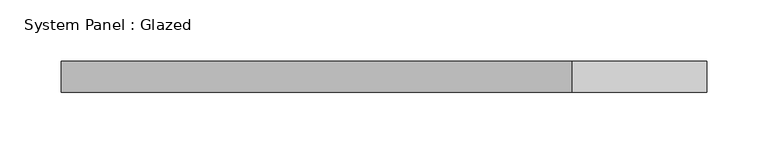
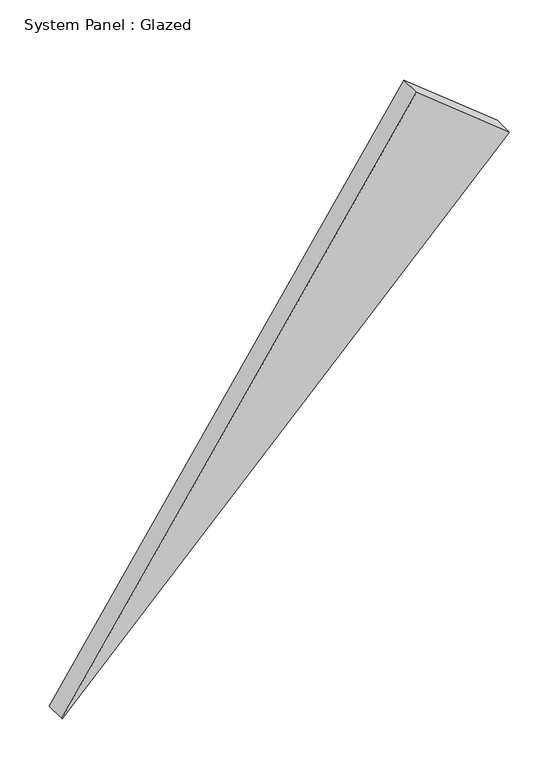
"""IFC4 building model written with IfcOpenShell, lengths in millimetres: plate geometry, System Panel : Glazed."""

from ifc_helpers import new_model, si_unit, frame, origin, place, context, project, spatial, polyline, outline, extrude, source, transform, mapped, element, save


def system_panel_glazed_5ada25a3(model_context):
    return source(origin(), model_context, "Body", "SweptSolid", [
        extrude(outline(polyline([(0.5298173, -263.6098538), (0.0, -262.9494463), (544.4463232, 263.6098538), (632.6132499, 153.7114009), (0.5298173, -263.6098538)])), frame((0.0, -44.45, 0.0), z_axis=(0.0, 1.0, 0.0), x_axis=(0.0, 0.0, 1.0)), (0.0, 0.0, 1.0), 25.4),
    ])


if __name__ == "__main__":
    model = new_model("IFC4")
    model_context = context("Model", 3, world=origin())
    ifc_project = project(units=[si_unit("LENGTHUNIT", "METRE", prefix="MILLI")], contexts=[model_context])
    site = spatial("IfcSite", under=ifc_project)
    building = spatial("IfcBuilding", under=site)
    placement = place(None, origin())
    system_panel_glazed_shape = system_panel_glazed_5ada25a3(model_context)
    element("IfcPlate", 1, ObjectType="System Panel : Glazed", at=placement, inside=building, context=model_context, shape_type="MappedRepresentation", body=[
        mapped(system_panel_glazed_shape, transform((0.0, 0.0, 0.0), x_axis=(1.0, 0.0, 0.0), y_axis=(0.0, 1.0, 0.0), z_axis=(0.0, 0.0, 1.0))),
    ])
    save(model, "model.ifc")
